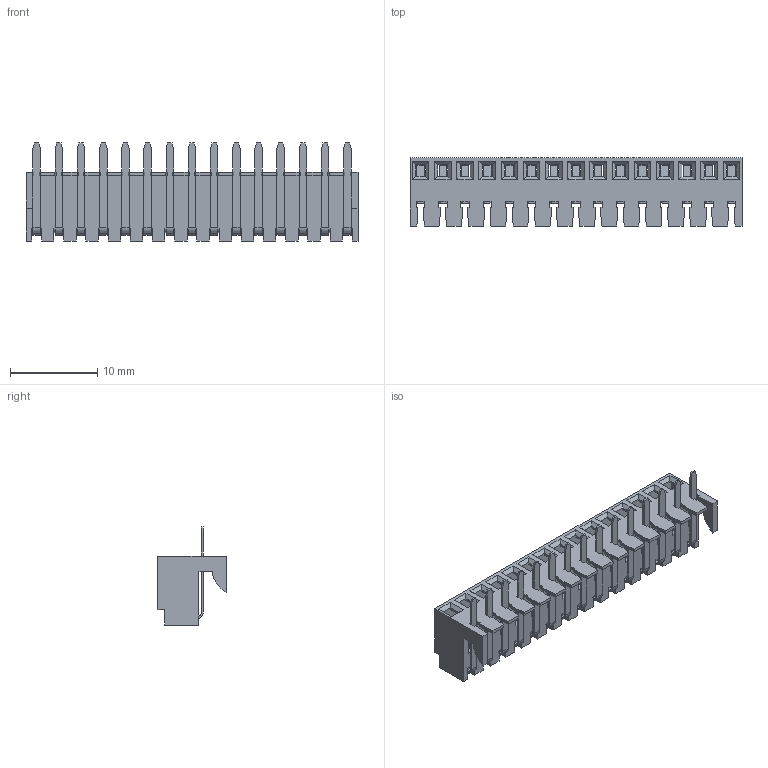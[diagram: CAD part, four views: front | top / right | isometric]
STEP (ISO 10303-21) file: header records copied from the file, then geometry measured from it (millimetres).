
FILE_DESCRIPTION((''),'2;1');
FILE_NAME('022173152','2014-10-13T',('me'),(''),'PRO/ENGINEER BY PARAMETRIC TECHNOLOGY CORPORATION, 2011490','PRO/ENGINEER BY PARAMETRIC TECHNOLOGY CORPORATION, 2011490','');
FILE_SCHEMA(('CONFIG_CONTROL_DESIGN'));
Length unit declared in the file: inch
Products named in the file (1): 022173152
Bounding box: 38 x 7.8 x 11.23 mm (x, y, z)
Volume: 612.1 mm3; surface area: 2504.6 mm2
Topology: 1 solids, 1 shells, 840 faces, 2433 edges, 1610 vertices
Faces by surface type: plane 701, cylinder 139
Entity records: 27381 total; most frequent: CARTESIAN_POINT 4854, ORIENTED_EDGE 4806, DIRECTION 4453, EDGE_CURVE 2403, VECTOR 2095, LINE 2095, VERTEX_POINT 1580, AXIS2_PLACEMENT_3D 1179
